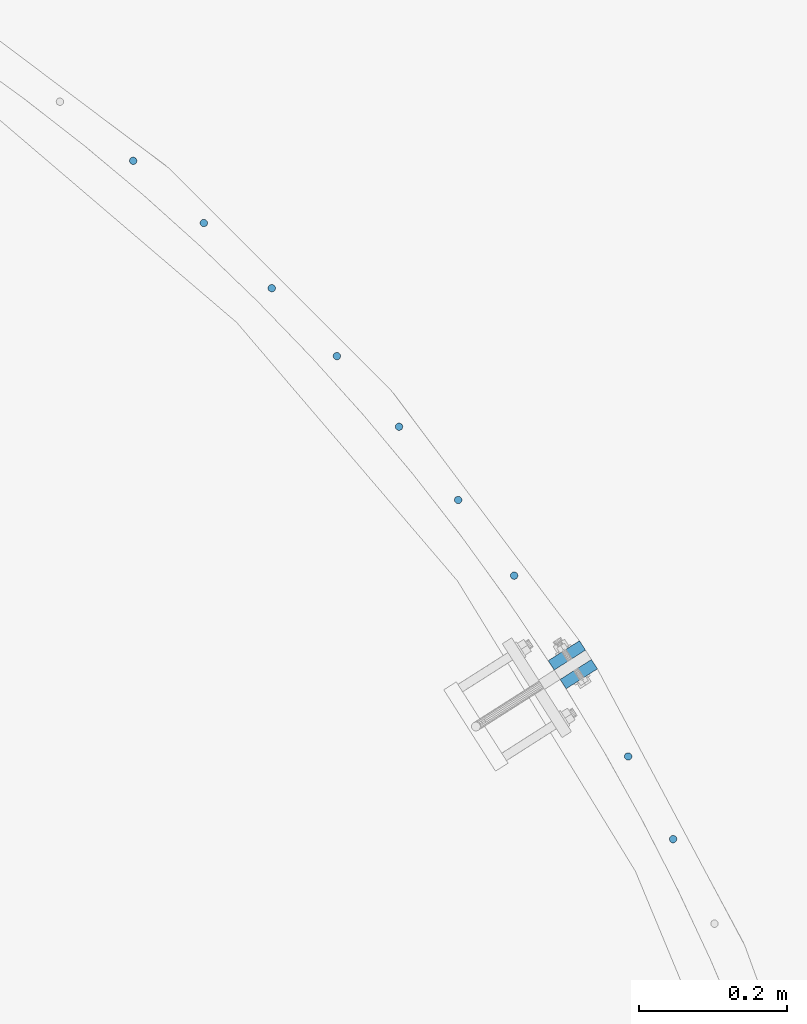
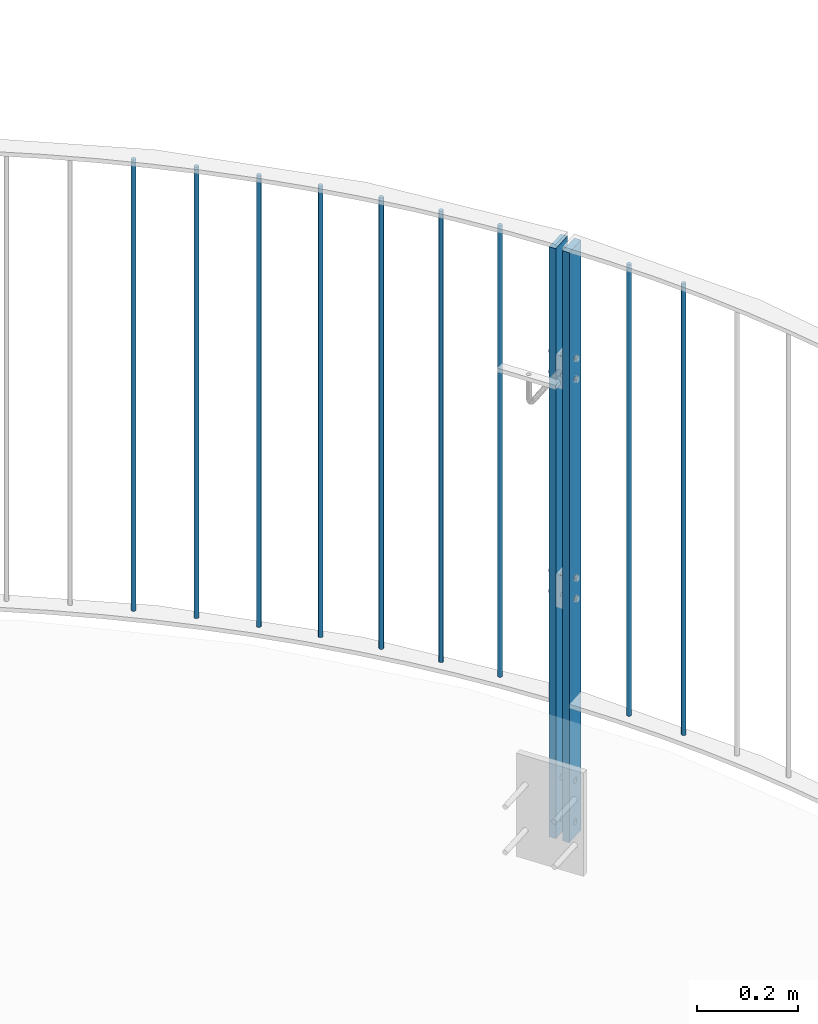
# One storey, part 91 of 296: 11 columns, 12 openings.
"""IFC2X3 building model written with IfcOpenShell, lengths in millimetres."""

from ifc_helpers import new_model, entity, si_unit, converted_unit, frame, frame_2d, origin, origin_with_axes, origin_2d, place, context, project, spatial, rectangle, circle, extrude, material, element, save


model = new_model("IFC2X3")

# Units and contexts
model_context = context("Model", 3, precision=1e-09, world=origin_with_axes())
ifc_project = project(units=[si_unit("LENGTHUNIT", "METRE", prefix="MILLI"), si_unit("AREAUNIT", "SQUARE_METRE"), si_unit("VOLUMEUNIT", "CUBIC_METRE"), converted_unit("PLANEANGLEUNIT", "DEGREE", entity("IfcPlaneAngleMeasure", 0.01745329), si_unit("PLANEANGLEUNIT", "RADIAN"), dimensions=[0, 0, 0, 0, 0, 0, 0])], contexts=[model_context])

# Site, building, storey
site_placement = place(None, origin_with_axes())
site = spatial("IfcSite", under=ifc_project, at=site_placement, Name="TZD-S?d | Treppenhausgel?nder", CompositionType="ELEMENT")
building_placement = place(site_placement, origin_with_axes())
building = spatial("IfcBuilding", under=site, at=building_placement, Name="Struktur 1", CompositionType="ELEMENT")
storey_placement = place(building_placement, origin_with_axes())
storey = spatial("IfcBuildingStorey", under=building, at=storey_placement, Name="Default Storey", CompositionType="ELEMENT", Elevation=0.0)

# Columns
ifc_material = material(Name="S235JR")
for number, where, z_axis, x_axis in (
    (1, (5581.990347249, 1271.305762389, 11725.0), (0.0, 0.0, -1.0), (0.0, 1.0, 0.0)),
    (2, (5521.381328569, 1382.861709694, 11725.0), (0.0, 0.0, -1.0), (0.0, 1.0, 0.0)),
    (3, (5367.595410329, 1626.727106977, 11725.0), (0.0, 0.0, -1.0), (-0.422618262, 0.906307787, 0.0)),
    (4, (5292.105864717, 1728.803113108, 11725.0), (0.0, 0.0, -1.0), (-0.422618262, 0.906307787, 0.0)),
    (5, (5212.351130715, 1827.582488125, 11725.0), (0.0, 0.0, -1.0), (-0.422618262, 0.906307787, 0.0)),
    (6, (5128.474998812, 1922.887141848, 11725.0), (0.0, 0.0, -1.0), (-0.422618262, 0.906307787, 0.0)),
    (7, (5040.628690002, 2014.545248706, 11725.0), (0.0, 0.0, -1.0), (-0.422618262, 0.906307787, 0.0)),
    (8, (4948.970583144, 2102.391557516, 11725.0), (0.0, 0.0, -1.0), (-0.422618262, 0.906307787, 0.0)),
    (9, (4853.66592942, 2186.267689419, 11725.0), (0.0, 0.0, -1.0), (-0.422618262, 0.906307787, 0.0)),
):
    element("IfcColumn", number, at=place(None, frame(where, z_axis=z_axis, x_axis=x_axis)), inside=storey, material=ifc_material, Name="-", ObjectType="-", context=model_context, shape_type="SweptSolid", body=[
        extrude(circle(Radius=5.0, at=origin_2d()), origin(), (0.0, 0.0, -1.0), 1090.0),
    ])

# Column, openings
column_1_placement = place(None, frame((5438.680928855, 1519.176700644, 11390.001), z_axis=(0.0, 0.0, 1.0), x_axis=(0.537299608, -0.843391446, 0.0)))
column_1 = element("IfcColumn", 10, at=column_1_placement, inside=storey, material=ifc_material, Name="-", ObjectType="-", context=model_context, shape_type="SweptSolid", body=[
    extrude(rectangle(XDim=15.0, YDim=50.0, at=origin_2d()), origin(), (0.0, 0.0, 1.0), 1424.999),
])
opening_1_placement = place(column_1_placement, frame((-8.0, 5.001, 624.999999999), z_axis=(-1.0, 0.0, 0.0), x_axis=(0.0, -1.0, 0.0)))
element("IfcOpeningElement", 11, at=opening_1_placement, cuts=column_1, ObjectType="Opening", context=model_context, shape_type="SweptSolid", body=[
    extrude(circle(Radius=5.001, at=frame_2d((5.001, 0.0), x_axis=(1.0, 0.0))), origin(), (0.0, 0.0, -1.0), 16.0),
])
opening_2_placement = place(column_1_placement, frame((-8.0, 5.001, 574.999999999), z_axis=(-1.0, 0.0, 0.0), x_axis=(0.0, -1.0, 0.0)))
element("IfcOpeningElement", 12, at=opening_2_placement, cuts=column_1, ObjectType="Opening", context=model_context, shape_type="SweptSolid", body=[
    extrude(circle(Radius=5.001, at=frame_2d((5.001, 0.0), x_axis=(1.0, 0.0))), origin(), (0.0, 0.0, -1.0), 16.0),
])
opening_3_placement = place(column_1_placement, frame((-8.0, 7.001, 135.0), z_axis=(-1.0, 0.0, 0.0), x_axis=(0.0, -1.0, 0.0)))
element("IfcOpeningElement", 13, at=opening_3_placement, cuts=column_1, ObjectType="Opening", context=model_context, shape_type="SweptSolid", body=[
    extrude(circle(Radius=7.001, at=frame_2d((7.001, 0.0), x_axis=(1.0, 0.0))), origin(), (0.0, 0.0, -1.0), 16.0),
])
opening_4_placement = place(column_1_placement, frame((-8.0, 7.001, 35.0), z_axis=(-1.0, 0.0, 0.0), x_axis=(0.0, -1.0, 0.0)))
element("IfcOpeningElement", 14, at=opening_4_placement, cuts=column_1, ObjectType="Opening", context=model_context, shape_type="SweptSolid", body=[
    extrude(circle(Radius=7.001, at=frame_2d((7.001, 0.0), x_axis=(1.0, 0.0))), origin(), (0.0, 0.0, -1.0), 16.0),
])
opening_5_placement = place(column_1_placement, frame((-8.0, 5.001, 1154.999999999), z_axis=(-1.0, 0.0, 0.0), x_axis=(0.0, -1.0, 0.0)))
element("IfcOpeningElement", 15, at=opening_5_placement, cuts=column_1, ObjectType="Opening", context=model_context, shape_type="SweptSolid", body=[
    extrude(circle(Radius=5.001, at=frame_2d((5.001, 0.0), x_axis=(1.0, 0.0))), origin(), (0.0, 0.0, -1.0), 16.0),
])
opening_6_placement = place(column_1_placement, frame((-8.0, 5.001, 1104.999999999), z_axis=(-1.0, 0.0, 0.0), x_axis=(0.0, -1.0, 0.0)))
element("IfcOpeningElement", 16, at=opening_6_placement, cuts=column_1, ObjectType="Opening", context=model_context, shape_type="SweptSolid", body=[
    extrude(circle(Radius=5.001, at=frame_2d((5.001, 0.0), x_axis=(1.0, 0.0))), origin(), (0.0, 0.0, -1.0), 16.0),
])

column_2_placement = place(None, frame((5454.799917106, 1493.87495727, 11390.001), z_axis=(0.0, 0.0, -1.0), x_axis=(-0.537299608, 0.843391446, 0.0)))
column_2 = element("IfcColumn", 17, at=column_2_placement, inside=storey, material=ifc_material, Name="-", ObjectType="-", context=model_context, shape_type="SweptSolid", body=[
    extrude(rectangle(XDim=15.0, YDim=50.0, at=origin_2d()), origin(), (0.0, 0.0, -1.0), 1424.999),
])
opening_7_placement = place(column_2_placement, frame((8.0, 7.001, -135.0), z_axis=(1.0, 0.0, 0.0), x_axis=(0.0, 1.0, 0.0)))
element("IfcOpeningElement", 18, at=opening_7_placement, cuts=column_2, ObjectType="Opening", context=model_context, shape_type="SweptSolid", body=[
    extrude(circle(Radius=7.001, at=frame_2d((-7.001, 0.0), x_axis=(1.0, 0.0))), origin(), (0.0, 0.0, -1.0), 16.0),
])
opening_8_placement = place(column_2_placement, frame((8.0, 7.001, -35.0), z_axis=(1.0, 0.0, 0.0), x_axis=(0.0, 1.0, 0.0)))
element("IfcOpeningElement", 19, at=opening_8_placement, cuts=column_2, ObjectType="Opening", context=model_context, shape_type="SweptSolid", body=[
    extrude(circle(Radius=7.001, at=frame_2d((-7.001, 0.0), x_axis=(1.0, 0.0))), origin(), (0.0, 0.0, -1.0), 16.0),
])
opening_9_placement = place(column_2_placement, frame((8.0, 5.001, -1154.999999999), z_axis=(1.0, 0.0, 0.0), x_axis=(0.0, 1.0, 0.0)))
element("IfcOpeningElement", 20, at=opening_9_placement, cuts=column_2, ObjectType="Opening", context=model_context, shape_type="SweptSolid", body=[
    extrude(circle(Radius=5.001, at=frame_2d((-5.001, 0.0), x_axis=(1.0, 0.0))), origin(), (0.0, 0.0, -1.0), 16.0),
])
opening_10_placement = place(column_2_placement, frame((8.0, 5.001, -1104.999999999), z_axis=(1.0, 0.0, 0.0), x_axis=(0.0, 1.0, 0.0)))
element("IfcOpeningElement", 21, at=opening_10_placement, cuts=column_2, ObjectType="Opening", context=model_context, shape_type="SweptSolid", body=[
    extrude(circle(Radius=5.001, at=frame_2d((-5.001, 0.0), x_axis=(1.0, 0.0))), origin(), (0.0, 0.0, -1.0), 16.0),
])
opening_11_placement = place(column_2_placement, frame((8.0, 5.001, -624.999999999), z_axis=(1.0, 0.0, 0.0), x_axis=(0.0, 1.0, 0.0)))
element("IfcOpeningElement", 22, at=opening_11_placement, cuts=column_2, ObjectType="Opening", context=model_context, shape_type="SweptSolid", body=[
    extrude(circle(Radius=5.001, at=frame_2d((-5.001, 0.0), x_axis=(1.0, 0.0))), origin(), (0.0, 0.0, -1.0), 16.0),
])
opening_12_placement = place(column_2_placement, frame((8.0, 5.001, -574.999999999), z_axis=(1.0, 0.0, 0.0), x_axis=(0.0, 1.0, 0.0)))
element("IfcOpeningElement", 23, at=opening_12_placement, cuts=column_2, ObjectType="Opening", context=model_context, shape_type="SweptSolid", body=[
    extrude(circle(Radius=5.001, at=frame_2d((-5.001, 0.0), x_axis=(1.0, 0.0))), origin(), (0.0, 0.0, -1.0), 16.0),
])

save(model, "model.ifc")
